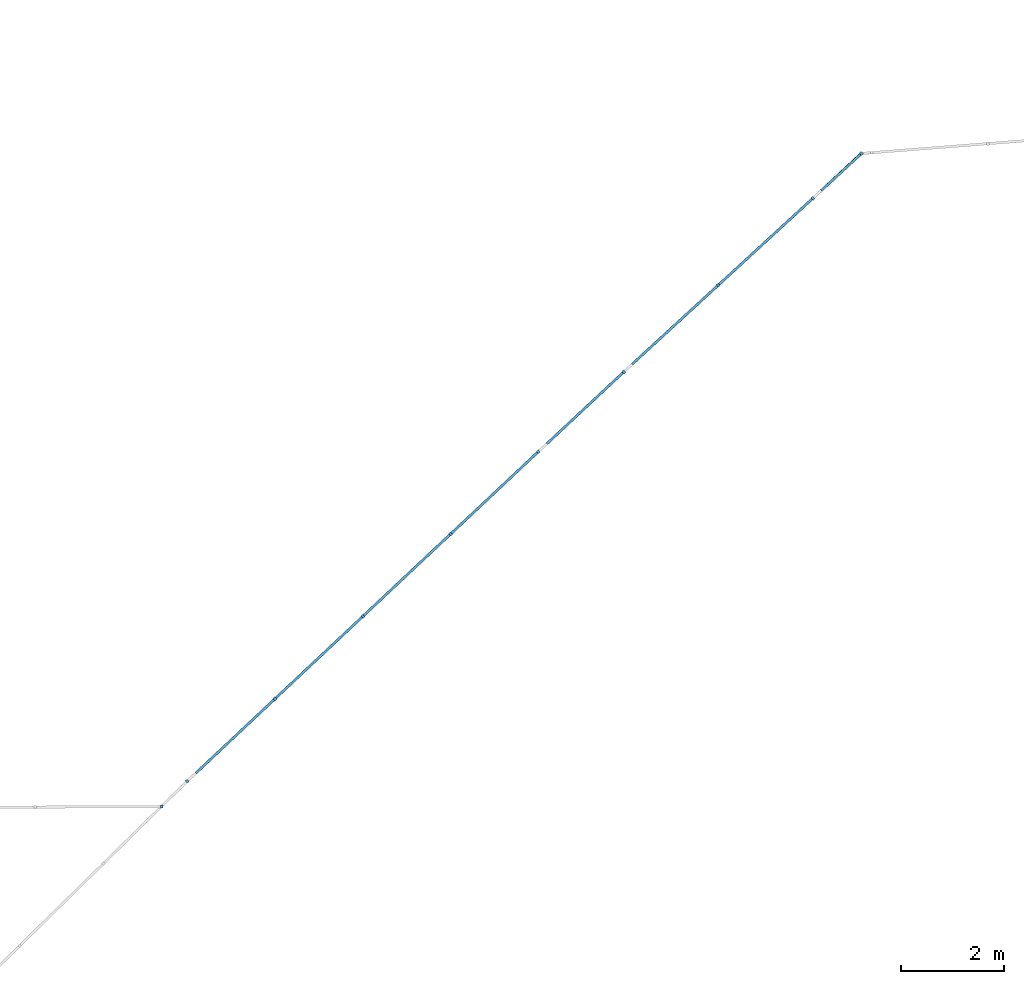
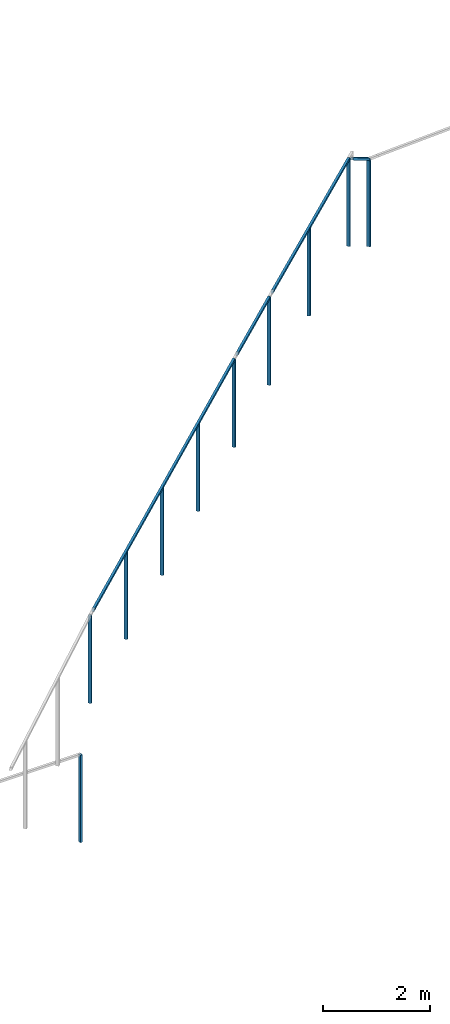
# One storey, part 69 of 91: 14 building element parts, 2 elements without a shape of their own.
"""IFC2X3 building model written with IfcOpenShell, lengths in metres."""

from ifc_helpers import new_model, entity, si_unit, converted_unit, derived_unit, money_unit, direction, frame, origin_with_axes, place, context, subcontext, project, spatial, faceted_brep, material, type_object, element, aggregate, save


model = new_model("IFC2X3")

# Units and contexts
model_context = context("Model", 3, precision=1e-05, world=origin_with_axes(), true_north=direction((0.0, 1.0)))
body_context = subcontext(model_context, "Body", "Model", "MODEL_VIEW")
ifc_project = project(units=[si_unit("LENGTHUNIT", "METRE"), si_unit("AREAUNIT", "SQUARE_METRE"), si_unit("VOLUMEUNIT", "CUBIC_METRE"), converted_unit("PLANEANGLEUNIT", "DEGREE", entity("IfcPlaneAngleMeasure", 0.0174532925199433), si_unit("PLANEANGLEUNIT", "RADIAN"), dimensions=[0, 0, 0, 0, 0, 0, 0]), money_unit("EUR"), converted_unit("TIMEUNIT", "Year", entity("IfcTimeMeasure", 31557600.0), si_unit("TIMEUNIT", "SECOND"), dimensions=[0, 0, 1, 0, 0, 0, 0]), si_unit("MASSUNIT", "GRAM", prefix="KILO"), si_unit("THERMODYNAMICTEMPERATUREUNIT", "DEGREE_CELSIUS"), si_unit("LUMINOUSINTENSITYUNIT", "LUMEN"), si_unit("ENERGYUNIT", "JOULE", prefix="MEGA"), derived_unit("THERMALCONDUCTANCEUNIT", [(si_unit("POWERUNIT", "WATT"), 1), (si_unit("LENGTHUNIT", "METRE"), -1), (si_unit("THERMODYNAMICTEMPERATUREUNIT", "KELVIN"), -1)]), derived_unit("SPECIFICHEATCAPACITYUNIT", [(si_unit("ENERGYUNIT", "JOULE"), 1), (si_unit("MASSUNIT", "GRAM", prefix="KILO"), -1), (si_unit("THERMODYNAMICTEMPERATUREUNIT", "KELVIN"), -1)]), derived_unit("MASSDENSITYUNIT", [(si_unit("MASSUNIT", "GRAM", prefix="KILO"), 1), (si_unit("VOLUMEUNIT", "CUBIC_METRE"), -1)])], contexts=[model_context])

# Site, building, storey
site_placement = place(None, origin_with_axes())
site = spatial("IfcSite", under=ifc_project, at=site_placement, Name="Site", CompositionType="ELEMENT")
building_placement = place(site_placement, origin_with_axes())
building = spatial("IfcBuilding", under=site, at=building_placement, Name="Bâtiment", CompositionType="ELEMENT")
storey_placement = place(building_placement, origin_with_axes())
storey = spatial("IfcBuildingStorey", under=building, at=storey_placement, Name="RDC", CompositionType="ELEMENT", Elevation=0.0)

# Proxy, building element parts
building_element_proxy_type = type_object("IfcBuildingElementProxyType", Name="Type de garde-corps", PredefinedType="NOTDEFINED")
proxy_1_placement = place(storey_placement, frame((79.63337255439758, 3.614023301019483, -2.37161404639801), z_axis=(0.0, 0.0, 1.0), x_axis=(1.0, 0.0, 0.0)))
proxy_1 = element("IfcBuildingElementProxy", 1, at=proxy_1_placement, inside=storey, type_object=building_element_proxy_type, Name="RAMPE-004")
ifc_material = material(Name="Acier Galva")
building_element_part_1_placement = place(proxy_1_placement, origin_with_axes())
building_element_part_1 = element("IfcBuildingElementPart", 2, at=building_element_part_1_placement, material=ifc_material, Name="Acier Galva", context=body_context, shape_type="Brep", body=[
    faceted_brep([(-14.12083259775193, -30.32255418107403, 2.707055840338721), (-14.16708275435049, -30.27546996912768, 2.707086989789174), (-14.16708275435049, -30.27546996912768, 4.707086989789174), (-14.12083259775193, -30.32255418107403, 4.707055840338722), (-14.15650175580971, -30.35759289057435, 2.709170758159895), (-14.20275191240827, -30.310508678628, 2.709201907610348), (-14.20275191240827, -30.310508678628, 4.709201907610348), (-14.15650175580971, -30.35759289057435, 4.709170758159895)], [[[0, 1, 2, 3]], [[0, 4, 5, 1]], [[1, 5, 6, 2]], [[3, 2, 6, 7]], [[4, 0, 3, 7]], [[5, 4, 7, 6]]]),
])
building_element_part_2_placement = place(proxy_1_placement, origin_with_axes())
building_element_part_2 = element("IfcBuildingElementPart", 3, at=building_element_part_2_placement, material=ifc_material, Name="Acier Galva", context=body_context, shape_type="Brep", body=[
    faceted_brep([(-7.32734855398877, -23.94781468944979, 2.320857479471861), (-7.372513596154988, -23.89968861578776, 2.320861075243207), (-7.372513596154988, -23.89968861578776, 4.320861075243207), (-7.32734855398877, -23.94781468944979, 4.320857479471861), (-7.363807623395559, -23.98203071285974, 2.322931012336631), (-7.408972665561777, -23.93390463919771, 2.322934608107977), (-7.408972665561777, -23.93390463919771, 4.322934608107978), (-7.363807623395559, -23.98203071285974, 4.322931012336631)], [[[0, 1, 2, 3]], [[0, 4, 5, 1]], [[1, 5, 6, 2]], [[3, 2, 6, 7]], [[4, 0, 3, 7]], [[5, 4, 7, 6]]]),
])
building_element_part_3_placement = place(proxy_1_placement, origin_with_axes())
building_element_part_3 = element("IfcBuildingElementPart", 4, at=building_element_part_3_placement, material=ifc_material, Name="Acier Galva", context=body_context, shape_type="Brep", body=[
    faceted_brep([(-5.674241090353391, -22.40466046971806, 2.227187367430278), (-5.719279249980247, -22.35641563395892, 2.227195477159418), (-5.719279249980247, -22.35641563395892, 4.227195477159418), (-5.674241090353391, -22.40466046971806, 4.227187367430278), (-5.710790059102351, -22.43878044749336, 2.228967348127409), (-5.755828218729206, -22.39053561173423, 2.228975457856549), (-5.755828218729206, -22.39053561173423, 4.228975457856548), (-5.710790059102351, -22.43878044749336, 4.228967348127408)], [[[0, 1, 2, 3]], [[0, 4, 5, 1]], [[1, 5, 6, 2]], [[3, 2, 6, 7]], [[4, 0, 3, 7]], [[5, 4, 7, 6]]]),
])
building_element_part_4_placement = place(proxy_1_placement, origin_with_axes())
building_element_part_4 = element("IfcBuildingElementPart", 5, at=building_element_part_4_placement, material=ifc_material, Name="Acier Galva", context=body_context, shape_type="Brep", body=[
    faceted_brep([(-2.01501644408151, -19.04516284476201, 2.072410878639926), (-2.05966861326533, -18.99656054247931, 2.072348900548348), (-2.059661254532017, -18.99655378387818, 4.080452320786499), (-2.051846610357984, -19.07897909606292, 2.088531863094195), (-2.096498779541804, -19.03037679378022, 2.088469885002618), (-2.096491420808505, -19.03037003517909, 4.080452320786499), (-2.01502380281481, -19.04516960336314, 4.080452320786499), (-2.051853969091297, -19.07898585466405, 4.080452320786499)], [[[0, 1, 2]], [[0, 3, 4, 1]], [[1, 4, 5, 2]], [[0, 2, 6]], [[3, 0, 6, 7]], [[4, 3, 7]], [[4, 7, 5]], [[6, 2, 5, 7]]]),
])
building_element_part_5_placement = place(proxy_1_placement, origin_with_axes())
building_element_part_5 = element("IfcBuildingElementPart", 6, at=building_element_part_5_placement, material=ifc_material, Name="Acier Galva", context=body_context, shape_type="Brep", body=[
    faceted_brep([(-1.076664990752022, -18.17761022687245, 1.211631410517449), (-1.121391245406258, -18.1290760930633, 1.211959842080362), (-1.121429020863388, -18.12911095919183, 3.217220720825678), (-1.1133804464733, -18.21155098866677, 1.227283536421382), (-1.158106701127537, -18.16301685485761, 1.227611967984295), (-1.158144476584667, -18.16305172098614, 3.217220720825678), (-1.076627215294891, -18.17757536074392, 3.217220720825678), (-1.11334267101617, -18.21151612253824, 3.217220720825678)], [[[0, 1, 2]], [[0, 3, 4, 1]], [[1, 4, 5, 2]], [[0, 2, 6]], [[3, 0, 6, 7]], [[4, 3, 7]], [[4, 7, 5]], [[6, 2, 5, 7]]]),
])
building_element_part_6_placement = place(proxy_1_placement, origin_with_axes())
building_element_part_6 = element("IfcBuildingElementPart", 7, at=building_element_part_6_placement, material=ifc_material, Name="Acier Galva", context=body_context, shape_type="Brep", body=[
    faceted_brep([(-13.98061843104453, -30.18078885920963, 4.723832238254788), (-14.01707750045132, -30.21500488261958, 4.675862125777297), (-7.351454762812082, -23.95946568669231, 4.296894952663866), (-14.01483445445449, -30.14432978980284, 4.723832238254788), (-14.05129352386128, -30.17854581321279, 4.675862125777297), (-7.385622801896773, -23.92296158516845, 4.296894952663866), (-7.350698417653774, -23.95875774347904, 4.346894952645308), (-7.384866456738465, -23.92225364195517, 4.346894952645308)], [[[0, 1, 2]], [[0, 3, 4, 1]], [[1, 5, 2]], [[0, 2, 6]], [[3, 0, 6]], [[4, 3, 7]], [[1, 4, 5]], [[6, 2, 5, 7]], [[3, 6, 7]], [[4, 7, 5]]]),
])
building_element_part_7_placement = place(proxy_1_placement, origin_with_axes())
building_element_part_7 = element("IfcBuildingElementPart", 8, at=building_element_part_7_placement, material=ifc_material, Name="Acier Galva", context=body_context, shape_type="Brep", body=[
    faceted_brep([(-12.42257223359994, -28.7295684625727, 2.610541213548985), (-12.46773738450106, -28.68144249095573, 2.610541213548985), (-12.46773738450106, -28.68144249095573, 4.610541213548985), (-12.42257223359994, -28.7295684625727, 4.610541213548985), (-12.45903130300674, -28.76378448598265, 2.612614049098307), (-12.50419645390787, -28.71565851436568, 2.612614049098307), (-12.50419645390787, -28.71565851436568, 4.612614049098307), (-12.45903130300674, -28.76378448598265, 4.612614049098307)], [[[0, 1, 2, 3]], [[0, 4, 5, 1]], [[1, 5, 6, 2]], [[3, 2, 6, 7]], [[4, 0, 3, 7]], [[5, 4, 7, 6]]]),
])
building_element_part_8_placement = place(proxy_1_placement, origin_with_axes())
building_element_part_8 = element("IfcBuildingElementPart", 9, at=building_element_part_8_placement, material=ifc_material, Name="Acier Galva", context=body_context, shape_type="Brep", body=[
    faceted_brep([(-9.025756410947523, -25.54173257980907, 2.417419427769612), (-9.07092156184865, -25.4936066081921, 2.417419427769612), (-9.07092156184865, -25.4936066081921, 4.417419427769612), (-9.025756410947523, -25.54173257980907, 4.417419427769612), (-9.062215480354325, -25.57594860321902, 2.419492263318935), (-9.107380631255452, -25.52782263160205, 2.419492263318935), (-9.107380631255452, -25.52782263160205, 4.419492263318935), (-9.062215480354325, -25.57594860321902, 4.419492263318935)], [[[0, 1, 2, 3]], [[0, 4, 5, 1]], [[1, 5, 6, 2]], [[3, 2, 6, 7]], [[4, 0, 3, 7]], [[5, 4, 7, 6]]]),
])
building_element_part_9_placement = place(proxy_1_placement, origin_with_axes())
building_element_part_9 = element("IfcBuildingElementPart", 10, at=building_element_part_9_placement, material=ifc_material, Name="Acier Galva", context=body_context, shape_type="Brep", body=[
    faceted_brep([(-10.72416432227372, -27.13565052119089, 2.513980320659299), (-10.76932947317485, -27.08752454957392, 2.513980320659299), (-10.76932947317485, -27.08752454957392, 4.513980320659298), (-10.72416432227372, -27.13565052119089, 4.513980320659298), (-10.76062339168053, -27.16986654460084, 2.516053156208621), (-10.80578854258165, -27.12174057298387, 2.516053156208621), (-10.80578854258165, -27.12174057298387, 4.516053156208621), (-10.76062339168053, -27.16986654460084, 4.516053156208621)], [[[0, 1, 2, 3]], [[0, 4, 5, 1]], [[1, 5, 6, 2]], [[3, 2, 6, 7]], [[4, 0, 3, 7]], [[5, 4, 7, 6]]]),
])
building_element_part_10_placement = place(proxy_1_placement, origin_with_axes())
building_element_part_10 = element("IfcBuildingElementPart", 11, at=building_element_part_10_placement, material=ifc_material, Name="Acier Galva", context=body_context, shape_type="Brep", body=[
    faceted_brep([(-7.186630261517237, -23.80559424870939, 4.337584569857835), (-7.223179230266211, -23.83971422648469, 4.289615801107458), (-5.698430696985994, -22.41629531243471, 4.203078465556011), (-7.220750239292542, -23.76904527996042, 4.337584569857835), (-7.257299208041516, -23.80316525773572, 4.289615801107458), (-5.732399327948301, -22.37960505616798, 4.203078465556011), (-5.697669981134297, -22.4155910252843, 4.253078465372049), (-5.731638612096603, -22.37890076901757, 4.253078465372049)], [[[0, 1, 2]], [[0, 3, 4, 1]], [[1, 5, 2]], [[0, 2, 6]], [[3, 0, 6]], [[4, 3, 7]], [[1, 4, 5]], [[6, 2, 5, 7]], [[3, 6, 7]], [[4, 7, 5]]]),
])
building_element_part_11_placement = place(proxy_1_placement, origin_with_axes())
building_element_part_11 = element("IfcBuildingElementPart", 12, at=building_element_part_11_placement, material=ifc_material, Name="Acier Galva", context=body_context, shape_type="Brep", body=[
    faceted_brep([(-5.532390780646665, -22.26383999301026, 4.246408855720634), (-5.569220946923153, -22.29765624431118, 4.197872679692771), (-2.039091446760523, -19.05640791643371, 4.055452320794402), (-5.56620703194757, -22.22700982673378, 4.246408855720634), (-5.603037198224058, -22.26082607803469, 4.197872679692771), (-2.072970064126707, -19.01963501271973, 4.055452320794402), (-2.038545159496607, -19.0559046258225, 4.105452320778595), (-2.072423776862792, -19.01913172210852, 4.105452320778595)], [[[0, 1, 2]], [[0, 3, 4, 1]], [[1, 5, 2]], [[0, 2, 6]], [[3, 0, 6]], [[4, 3, 7]], [[1, 4, 5]], [[6, 2, 5, 7]], [[3, 6, 7]], [[4, 7, 5]]]),
])
building_element_part_12_placement = place(proxy_1_placement, origin_with_axes())
building_element_part_12 = element("IfcBuildingElementPart", 13, at=building_element_part_12_placement, material=ifc_material, Name="Acier Galva", context=body_context, shape_type="Brep", body=[
    faceted_brep([(-3.844662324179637, -20.72508371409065, 2.153525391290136), (-3.889299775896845, -20.67646789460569, 2.153525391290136), (-3.889299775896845, -20.67646789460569, 4.153525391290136), (-3.844662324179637, -20.72508371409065, 4.153525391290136), (-3.881492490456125, -20.75889996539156, 2.155011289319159), (-3.926129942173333, -20.7102841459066, 2.155011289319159), (-3.926129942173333, -20.7102841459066, 4.15501128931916), (-3.881492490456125, -20.75889996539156, 4.155011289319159)], [[[0, 1, 2, 3]], [[0, 4, 5, 1]], [[1, 5, 6, 2]], [[3, 2, 6, 7]], [[4, 0, 3, 7]], [[5, 4, 7, 6]]]),
])
building_element_part_13_placement = place(proxy_1_placement, origin_with_axes())
building_element_part_13 = element("IfcBuildingElementPart", 14, at=building_element_part_13_placement, material=ifc_material, Name="Acier Galva", context=body_context, shape_type="Brep", body=[
    faceted_brep([(-1.873567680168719, -18.90339411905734, 3.958612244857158), (-1.910283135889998, -18.93733488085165, 3.932048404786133), (-1.115172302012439, -18.19761816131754, 3.192335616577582), (-1.907508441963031, -18.86667866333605, 3.958612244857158), (-1.94422389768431, -18.90061942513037, 3.932048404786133), (-1.134570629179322, -18.14897987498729, 3.192335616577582), (-1.100201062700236, -18.19164720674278, 3.242105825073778), (-1.119599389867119, -18.14300892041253, 3.242105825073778)], [[[0, 1, 2]], [[0, 3, 4, 1]], [[1, 5, 2]], [[0, 2, 6]], [[3, 0, 6]], [[4, 3, 7]], [[1, 4, 5]], [[6, 2, 5, 7]], [[3, 6, 7]], [[4, 7, 5]]]),
])
aggregate(proxy_1, [building_element_part_1, building_element_part_2, building_element_part_3, building_element_part_4, building_element_part_5, building_element_part_6, building_element_part_7, building_element_part_8, building_element_part_9, building_element_part_10, building_element_part_11, building_element_part_12, building_element_part_13])

# Proxy, building element part
proxy_2_placement = place(storey_placement, frame((60.07799987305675, -27.23556215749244, -2.37161404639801), z_axis=(0.0, 0.0, 1.0), x_axis=(1.0, 0.0, 0.0)))
proxy_2 = element("IfcBuildingElementProxy", 15, at=proxy_2_placement, inside=storey, type_object=building_element_proxy_type, Name="RAMPE-004")
building_element_part_14_placement = place(proxy_2_placement, origin_with_axes())
building_element_part_14 = element("IfcBuildingElementPart", 16, at=building_element_part_14_placement, material=ifc_material, Name="Acier Galva", context=body_context, shape_type="Brep", body=[
    faceted_brep([(4.927161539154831, 0.00891410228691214, 0.0), (4.926867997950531, 0.07491344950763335, 0.0), (4.926867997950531, 0.07491344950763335, 2.0), (4.927161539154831, 0.00891410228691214, 2.0), (4.877162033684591, 0.008691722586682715, 0.0), (4.876868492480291, 0.07469106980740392, 0.0), (4.876868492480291, 0.07469106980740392, 2.0), (4.877162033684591, 0.008691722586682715, 2.0)], [[[0, 1, 2, 3]], [[0, 4, 5, 1]], [[1, 5, 6, 2]], [[3, 2, 6, 7]], [[4, 0, 3, 7]], [[5, 4, 7, 6]]]),
])
aggregate(proxy_2, [building_element_part_14])

save(model, "model.ifc")
